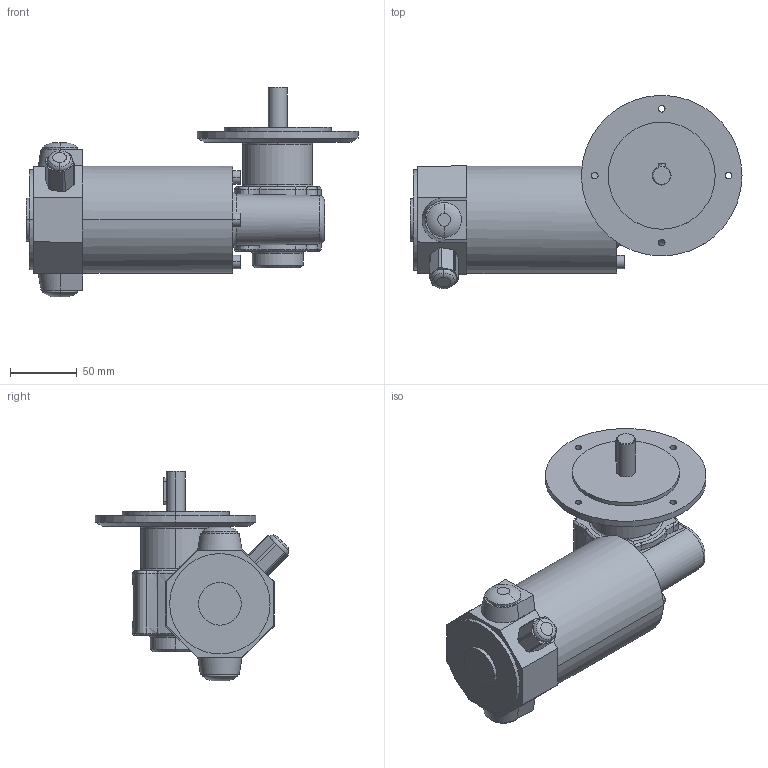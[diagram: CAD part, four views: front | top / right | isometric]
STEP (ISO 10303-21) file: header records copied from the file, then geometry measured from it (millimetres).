
FILE_DESCRIPTION(('OneSpaceDesigner STEP Export'),'2;1');
FILE_NAME('EPG12_GF131-10.stp','2008-07-10T 7:32:03',(''),(''),'OneSpace Designer STEP processor (Jan. 2003) for AP214(CD)(Solid Model)','OneSpace Designer 12.01D 09-Jul-2004 (C) CoCreate Software GmbH','');
FILE_SCHEMA(('AUTOMOTIVE_DESIGN_CC2 {1 2 10303 214 -1 1 5 1}'));
Length unit declared in the file: millimetre
Products named in the file (2): EPG12_GF131-10
Assembly tree (1 placements, depth 2):
  EPG12_GF131-10
    EPG12_GF131-10
Bounding box: 248 x 144.4 x 156.5 mm (x, y, z)
Volume: 1229131.5 mm3; surface area: 101957.3 mm2
Topology: 1 solids, 1 shells, 194 faces, 485 edges, 309 vertices
Faces by surface type: plane 52, cylinder 50, bspline 41, extrusion 25, torus 14, cone 12
Entity records: 16585 total; most frequent: CARTESIAN_POINT 12684, ORIENTED_EDGE 970, DIRECTION 522, EDGE_CURVE 485, VERTEX_POINT 309, EDGE_LOOP 218, FACE_OUTER_BOUND 194, ADVANCED_FACE 194
